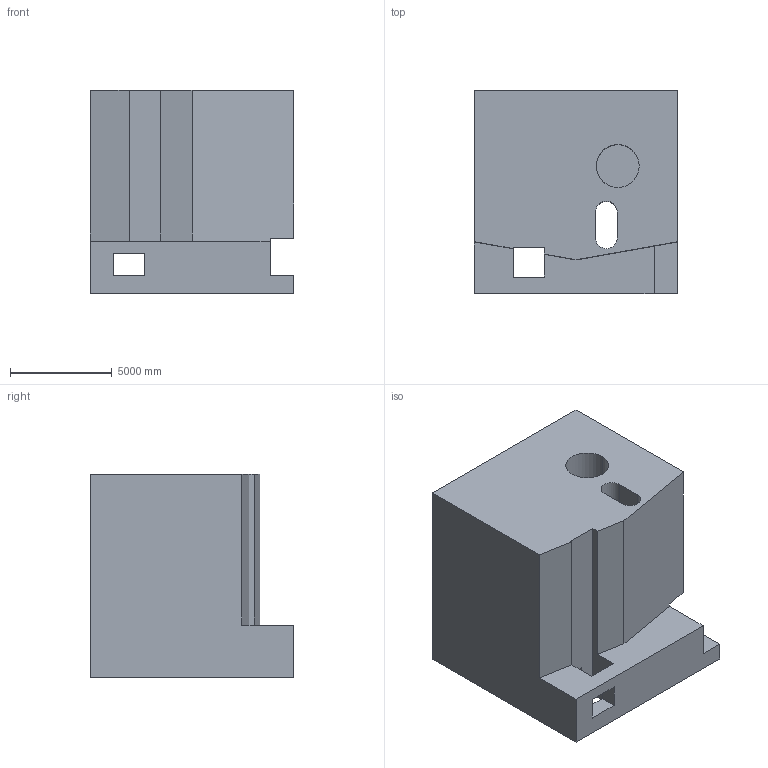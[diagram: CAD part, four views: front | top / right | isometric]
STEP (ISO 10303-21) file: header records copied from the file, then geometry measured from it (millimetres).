
FILE_DESCRIPTION (( 'STEP AP203' ), '1' );
FILE_NAME ('1816.STEP', '2022-08-26T14:56:01', ( 'user' ), ( '' ), 'SwSTEP 2.0', 'SolidWorks 2021', '' );
FILE_SCHEMA (( 'CONFIG_CONTROL_DESIGN' ));
Length unit declared in the file: centimetre
Products named in the file (1): 1816
Bounding box: 10000 x 10000 x 10000 mm (x, y, z)
Volume: 720554231215 mm3; surface area: 773389159.9 mm2
Topology: 1 solids, 1 shells, 50 faces, 162 edges, 108 vertices
Faces by surface type: plane 36, cylinder 14
Entity records: 2660 total; most frequent: CARTESIAN_POINT 1132, ORIENTED_EDGE 324, DIRECTION 276, EDGE_CURVE 162, LINE 122, VECTOR 122, VERTEX_POINT 108, AXIS2_PLACEMENT_3D 77
